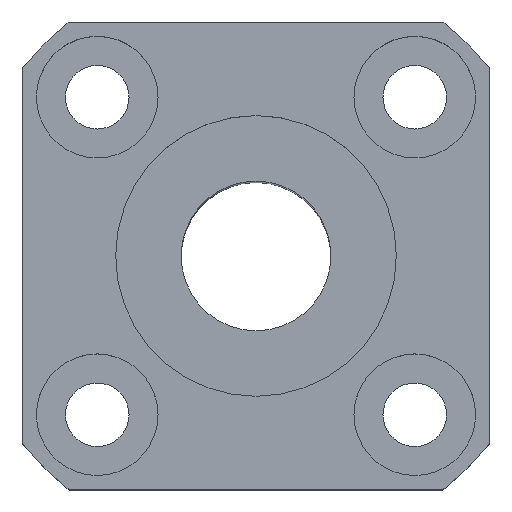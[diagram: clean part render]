
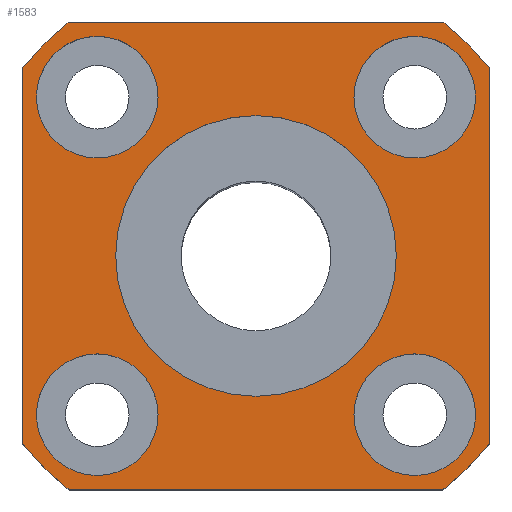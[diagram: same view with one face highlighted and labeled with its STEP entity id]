
A CAD part, top view. The second image highlights one B-rep face of the part: STEP entity #1583.
In plain terms, the highlighted planar face has unit normal (0, 0, 1).
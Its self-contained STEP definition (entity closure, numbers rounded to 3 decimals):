
#133=CARTESIAN_POINT('',(-7.5,0.,45.0));
#134=VERTEX_POINT('',#133);
#143=CARTESIAN_POINT('',(7.5,0.,45.0));
#144=VERTEX_POINT('',#143);
#145=CARTESIAN_POINT('',(0.0,0.0,45.0));
#146=DIRECTION('',(0.0,0.0,-1.0));
#147=DIRECTION('',(-1.0,0.0,0.0));
#148=AXIS2_PLACEMENT_3D('',#145,#146,#147);
#149=CIRCLE('',#148,7.5);
#150=EDGE_CURVE('',#144,#134,#149,.T.);
#303=CARTESIAN_POINT('',(-5.235,8.485,45.0));
#304=VERTEX_POINT('',#303);
#320=CARTESIAN_POINT('',(-11.735,8.485,45.0));
#321=VERTEX_POINT('',#320);
#328=CARTESIAN_POINT('',(-8.485,8.485,45.0));
#329=DIRECTION('',(0.0,0.0,-1.0));
#330=DIRECTION('',(1.0,0.0,0.0));
#331=AXIS2_PLACEMENT_3D('',#328,#329,#330);
#332=CIRCLE('',#331,3.25);
#333=EDGE_CURVE('',#304,#321,#332,.T.);
#429=CARTESIAN_POINT('',(-8.485,-5.235,45.0));
#430=VERTEX_POINT('',#429);
#446=CARTESIAN_POINT('',(-8.485,-11.735,45.0));
#447=VERTEX_POINT('',#446);
#454=CARTESIAN_POINT('',(-8.485,-8.485,45.0));
#455=DIRECTION('',(0.0,0.0,-1.0));
#456=DIRECTION('',(0.0,1.0,0.0));
#457=AXIS2_PLACEMENT_3D('',#454,#455,#456);
#458=CIRCLE('',#457,3.25);
#459=EDGE_CURVE('',#430,#447,#458,.T.);
#555=CARTESIAN_POINT('',(5.235,-8.485,45.0));
#556=VERTEX_POINT('',#555);
#572=CARTESIAN_POINT('',(11.735,-8.485,45.0));
#573=VERTEX_POINT('',#572);
#580=CARTESIAN_POINT('',(8.485,-8.485,45.0));
#581=DIRECTION('',(0.0,0.0,-1.0));
#582=DIRECTION('',(-1.0,0.0,0.0));
#583=AXIS2_PLACEMENT_3D('',#580,#581,#582);
#584=CIRCLE('',#583,3.25);
#585=EDGE_CURVE('',#556,#573,#584,.T.);
#681=CARTESIAN_POINT('',(8.485,5.235,45.0));
#682=VERTEX_POINT('',#681);
#698=CARTESIAN_POINT('',(8.485,11.735,45.0));
#699=VERTEX_POINT('',#698);
#706=CARTESIAN_POINT('',(8.485,8.485,45.0));
#707=DIRECTION('',(0.0,0.0,-1.0));
#708=DIRECTION('',(0.0,-1.0,0.0));
#709=AXIS2_PLACEMENT_3D('',#706,#707,#708);
#710=CIRCLE('',#709,3.25);
#711=EDGE_CURVE('',#682,#699,#710,.T.);
#769=CARTESIAN_POINT('',(8.485,8.485,45.0));
#770=DIRECTION('',(0.0,0.0,-1.0));
#771=DIRECTION('',(0.0,-1.0,0.0));
#772=AXIS2_PLACEMENT_3D('',#769,#770,#771);
#773=CIRCLE('',#772,3.25);
#774=EDGE_CURVE('',#699,#682,#773,.T.);
#873=CARTESIAN_POINT('',(8.485,-8.485,45.0));
#874=DIRECTION('',(0.0,0.0,-1.0));
#875=DIRECTION('',(-1.0,0.0,0.0));
#876=AXIS2_PLACEMENT_3D('',#873,#874,#875);
#877=CIRCLE('',#876,3.25);
#878=EDGE_CURVE('',#573,#556,#877,.T.);
#977=CARTESIAN_POINT('',(-8.485,-8.485,45.0));
#978=DIRECTION('',(0.0,0.0,-1.0));
#979=DIRECTION('',(0.0,1.0,0.0));
#980=AXIS2_PLACEMENT_3D('',#977,#978,#979);
#981=CIRCLE('',#980,3.25);
#982=EDGE_CURVE('',#447,#430,#981,.T.);
#1081=CARTESIAN_POINT('',(-8.485,8.485,45.0));
#1082=DIRECTION('',(0.0,0.0,-1.0));
#1083=DIRECTION('',(1.0,0.0,0.0));
#1084=AXIS2_PLACEMENT_3D('',#1081,#1082,#1083);
#1085=CIRCLE('',#1084,3.25);
#1086=EDGE_CURVE('',#321,#304,#1085,.T.);
#1147=CARTESIAN_POINT('',(-12.5,-9.987,45.0));
#1148=VERTEX_POINT('',#1147);
#1155=CARTESIAN_POINT('',(-12.5,9.987,45.0));
#1156=VERTEX_POINT('',#1155);
#1157=CARTESIAN_POINT('',(-12.5,9.987,45.0));
#1158=DIRECTION('',(0.0,-1.0,0.0));
#1159=VECTOR('',#1158,19.975);
#1160=LINE('',#1157,#1159);
#1161=EDGE_CURVE('',#1156,#1148,#1160,.T.);
#1186=CARTESIAN_POINT('',(-9.987,-12.5,45.0));
#1187=VERTEX_POINT('',#1186);
#1194=CARTESIAN_POINT('',(0.0,0.0,45.0));
#1195=DIRECTION('',(0.0,0.0,1.0));
#1196=DIRECTION('',(1.0,0.0,0.0));
#1197=AXIS2_PLACEMENT_3D('',#1194,#1195,#1196);
#1198=CIRCLE('',#1197,16.);
#1199=EDGE_CURVE('',#1148,#1187,#1198,.T.);
#1218=CARTESIAN_POINT('',(9.987,-12.5,45.0));
#1219=VERTEX_POINT('',#1218);
#1226=CARTESIAN_POINT('',(-9.987,-12.5,45.0));
#1227=DIRECTION('',(1.0,0.0,0.0));
#1228=VECTOR('',#1227,19.975);
#1229=LINE('',#1226,#1228);
#1230=EDGE_CURVE('',#1187,#1219,#1229,.T.);
#1250=CARTESIAN_POINT('',(12.5,-9.987,45.0));
#1251=VERTEX_POINT('',#1250);
#1258=CARTESIAN_POINT('',(0.0,0.0,45.0));
#1259=DIRECTION('',(0.0,0.0,1.0));
#1260=DIRECTION('',(1.0,0.0,0.0));
#1261=AXIS2_PLACEMENT_3D('',#1258,#1259,#1260);
#1262=CIRCLE('',#1261,16.);
#1263=EDGE_CURVE('',#1219,#1251,#1262,.T.);
#1282=CARTESIAN_POINT('',(12.5,9.987,45.0));
#1283=VERTEX_POINT('',#1282);
#1290=CARTESIAN_POINT('',(12.5,-9.987,45.0));
#1291=DIRECTION('',(0.0,1.0,0.0));
#1292=VECTOR('',#1291,19.975);
#1293=LINE('',#1290,#1292);
#1294=EDGE_CURVE('',#1251,#1283,#1293,.T.);
#1314=CARTESIAN_POINT('',(9.987,12.5,45.0));
#1315=VERTEX_POINT('',#1314);
#1322=CARTESIAN_POINT('',(0.0,0.0,45.0));
#1323=DIRECTION('',(0.0,0.0,1.0));
#1324=DIRECTION('',(1.0,0.0,0.0));
#1325=AXIS2_PLACEMENT_3D('',#1322,#1323,#1324);
#1326=CIRCLE('',#1325,16.);
#1327=EDGE_CURVE('',#1283,#1315,#1326,.T.);
#1346=CARTESIAN_POINT('',(-9.987,12.5,45.0));
#1347=VERTEX_POINT('',#1346);
#1354=CARTESIAN_POINT('',(9.987,12.5,45.0));
#1355=DIRECTION('',(-1.0,0.0,0.0));
#1356=VECTOR('',#1355,19.975);
#1357=LINE('',#1354,#1356);
#1358=EDGE_CURVE('',#1315,#1347,#1357,.T.);
#1377=CARTESIAN_POINT('',(0.0,0.0,45.0));
#1378=DIRECTION('',(0.0,0.0,1.0));
#1379=DIRECTION('',(1.0,0.0,0.0));
#1380=AXIS2_PLACEMENT_3D('',#1377,#1378,#1379);
#1381=CIRCLE('',#1380,16.);
#1382=EDGE_CURVE('',#1347,#1156,#1381,.T.);
#1502=CARTESIAN_POINT('',(0.0,0.0,45.0));
#1503=DIRECTION('',(0.0,0.0,-1.0));
#1504=DIRECTION('',(-1.0,0.0,0.0));
#1505=AXIS2_PLACEMENT_3D('',#1502,#1503,#1504);
#1506=CIRCLE('',#1505,7.5);
#1507=EDGE_CURVE('',#134,#144,#1506,.T.);
#1548=CARTESIAN_POINT('',(0.0,0.0,45.0));
#1549=DIRECTION('',(0.0,0.0,-1.0));
#1550=DIRECTION('',(-1.0,0.0,0.0));
#1551=AXIS2_PLACEMENT_3D('',#1548,#1549,#1550);
#1552=PLANE('',#1551);
#1553=ORIENTED_EDGE('',*,*,#1382,.T.);
#1554=ORIENTED_EDGE('',*,*,#1161,.T.);
#1555=ORIENTED_EDGE('',*,*,#1199,.T.);
#1556=ORIENTED_EDGE('',*,*,#1230,.T.);
#1557=ORIENTED_EDGE('',*,*,#1263,.T.);
#1558=ORIENTED_EDGE('',*,*,#1294,.T.);
#1559=ORIENTED_EDGE('',*,*,#1327,.T.);
#1560=ORIENTED_EDGE('',*,*,#1358,.T.);
#1561=EDGE_LOOP('',(#1553,#1554,#1555,#1556,#1557,#1558,#1559,#1560));
#1562=FACE_OUTER_BOUND('',#1561,.T.);
#1563=ORIENTED_EDGE('',*,*,#711,.T.);
#1564=ORIENTED_EDGE('',*,*,#774,.T.);
#1565=EDGE_LOOP('',(#1563,#1564));
#1566=FACE_BOUND('',#1565,.T.);
#1567=ORIENTED_EDGE('',*,*,#585,.T.);
#1568=ORIENTED_EDGE('',*,*,#878,.T.);
#1569=EDGE_LOOP('',(#1567,#1568));
#1570=FACE_BOUND('',#1569,.T.);
#1571=ORIENTED_EDGE('',*,*,#459,.T.);
#1572=ORIENTED_EDGE('',*,*,#982,.T.);
#1573=EDGE_LOOP('',(#1571,#1572));
#1574=FACE_BOUND('',#1573,.T.);
#1575=ORIENTED_EDGE('',*,*,#333,.T.);
#1576=ORIENTED_EDGE('',*,*,#1086,.T.);
#1577=EDGE_LOOP('',(#1575,#1576));
#1578=FACE_BOUND('',#1577,.T.);
#1579=ORIENTED_EDGE('',*,*,#150,.T.);
#1580=ORIENTED_EDGE('',*,*,#1507,.T.);
#1581=EDGE_LOOP('',(#1579,#1580));
#1582=FACE_BOUND('',#1581,.T.);
#1583=ADVANCED_FACE('',(#1562,#1566,#1570,#1574,#1578,#1582),#1552,.F.);
